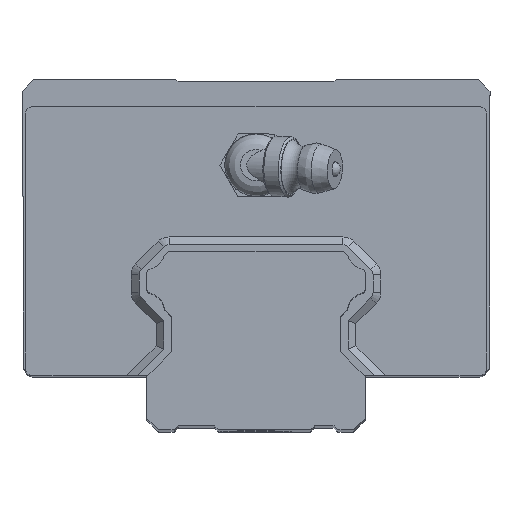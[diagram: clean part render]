
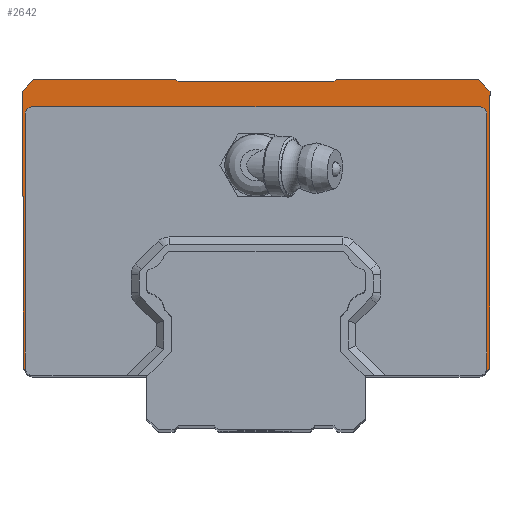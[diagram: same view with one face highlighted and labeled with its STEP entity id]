
A CAD part, top view. The second image highlights one B-rep face of the part: STEP entity #2642.
In plain terms, the highlighted planar face has unit normal (0, 0, 1).
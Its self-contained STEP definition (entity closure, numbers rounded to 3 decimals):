
#2471=CARTESIAN_POINT('',(0.,-48.616,32.22));
#2472=DIRECTION('',(0.0,0.0,1.0));
#2473=DIRECTION('',(1.0,0.0,0.0));
#2474=AXIS2_PLACEMENT_3D('',#2471,#2472,#2473);
#2475=PLANE('',#2474);
#2476=CARTESIAN_POINT('',(29.4,-11.65,32.22));
#2477=VERTEX_POINT('',#2476);
#2478=CARTESIAN_POINT('',(29.6,-11.05,32.22));
#2479=VERTEX_POINT('',#2478);
#2480=CARTESIAN_POINT('',(28.6,-11.05,32.22));
#2481=DIRECTION('',(0.0,0.0,1.0));
#2482=DIRECTION('',(1.0,0.0,0.0));
#2483=AXIS2_PLACEMENT_3D('',#2480,#2481,#2482);
#2484=CIRCLE('',#2483,1.);
#2485=EDGE_CURVE('',#2477,#2479,#2484,.T.);
#2486=ORIENTED_EDGE('',*,*,#2485,.F.);
#2487=CARTESIAN_POINT('',(30.,-11.05,32.22));
#2488=VERTEX_POINT('',#2487);
#2489=CARTESIAN_POINT('',(29.4,-11.65,32.22));
#2490=DIRECTION('',(0.707,0.707,0.0));
#2491=VECTOR('',#2490,0.849);
#2492=LINE('',#2489,#2491);
#2493=EDGE_CURVE('',#2477,#2488,#2492,.T.);
#2494=ORIENTED_EDGE('',*,*,#2493,.T.);
#2495=CARTESIAN_POINT('',(30.,24.45,32.22));
#2496=VERTEX_POINT('',#2495);
#2497=CARTESIAN_POINT('',(30.,-11.05,32.22));
#2498=DIRECTION('',(0.0,1.0,0.0));
#2499=VECTOR('',#2498,35.5);
#2500=LINE('',#2497,#2499);
#2501=EDGE_CURVE('',#2488,#2496,#2500,.T.);
#2502=ORIENTED_EDGE('',*,*,#2501,.T.);
#2503=CARTESIAN_POINT('',(28.5,25.95,32.22));
#2504=VERTEX_POINT('',#2503);
#2505=CARTESIAN_POINT('',(30.,24.45,32.22));
#2506=DIRECTION('',(-0.707,0.707,0.0));
#2507=VECTOR('',#2506,2.121);
#2508=LINE('',#2505,#2507);
#2509=EDGE_CURVE('',#2496,#2504,#2508,.T.);
#2510=ORIENTED_EDGE('',*,*,#2509,.T.);
#2511=CARTESIAN_POINT('',(10.3,25.95,32.22));
#2512=VERTEX_POINT('',#2511);
#2513=CARTESIAN_POINT('',(28.5,25.95,32.22));
#2514=DIRECTION('',(-1.0,0.0,0.0));
#2515=VECTOR('',#2514,18.2);
#2516=LINE('',#2513,#2515);
#2517=EDGE_CURVE('',#2504,#2512,#2516,.T.);
#2518=ORIENTED_EDGE('',*,*,#2517,.T.);
#2519=CARTESIAN_POINT('',(10.,25.65,32.22));
#2520=VERTEX_POINT('',#2519);
#2521=CARTESIAN_POINT('',(10.3,25.95,32.22));
#2522=DIRECTION('',(-0.707,-0.707,0.0));
#2523=VECTOR('',#2522,0.424);
#2524=LINE('',#2521,#2523);
#2525=EDGE_CURVE('',#2512,#2520,#2524,.T.);
#2526=ORIENTED_EDGE('',*,*,#2525,.T.);
#2527=CARTESIAN_POINT('',(-10.,25.65,32.22));
#2528=VERTEX_POINT('',#2527);
#2529=CARTESIAN_POINT('',(-10.,25.65,32.22));
#2530=DIRECTION('',(1.0,0.0,0.0));
#2531=VECTOR('',#2530,20.);
#2532=LINE('',#2529,#2531);
#2533=EDGE_CURVE('',#2528,#2520,#2532,.T.);
#2534=ORIENTED_EDGE('',*,*,#2533,.F.);
#2535=CARTESIAN_POINT('',(-10.3,25.95,32.22));
#2536=VERTEX_POINT('',#2535);
#2537=CARTESIAN_POINT('',(-10.,25.65,32.22));
#2538=DIRECTION('',(-0.707,0.707,0.0));
#2539=VECTOR('',#2538,0.424);
#2540=LINE('',#2537,#2539);
#2541=EDGE_CURVE('',#2528,#2536,#2540,.T.);
#2542=ORIENTED_EDGE('',*,*,#2541,.T.);
#2543=CARTESIAN_POINT('',(-28.5,25.95,32.22));
#2544=VERTEX_POINT('',#2543);
#2545=CARTESIAN_POINT('',(-10.3,25.95,32.22));
#2546=DIRECTION('',(-1.0,0.0,0.0));
#2547=VECTOR('',#2546,18.2);
#2548=LINE('',#2545,#2547);
#2549=EDGE_CURVE('',#2536,#2544,#2548,.T.);
#2550=ORIENTED_EDGE('',*,*,#2549,.T.);
#2551=CARTESIAN_POINT('',(-30.,24.45,32.22));
#2552=VERTEX_POINT('',#2551);
#2553=CARTESIAN_POINT('',(-28.5,25.95,32.22));
#2554=DIRECTION('',(-0.707,-0.707,0.0));
#2555=VECTOR('',#2554,2.121);
#2556=LINE('',#2553,#2555);
#2557=EDGE_CURVE('',#2544,#2552,#2556,.T.);
#2558=ORIENTED_EDGE('',*,*,#2557,.T.);
#2559=CARTESIAN_POINT('',(-30.,11.1,32.22));
#2560=VERTEX_POINT('',#2559);
#2561=CARTESIAN_POINT('',(-30.,24.45,32.22));
#2562=DIRECTION('',(0.0,-1.0,0.0));
#2563=VECTOR('',#2562,13.35);
#2564=LINE('',#2561,#2563);
#2565=EDGE_CURVE('',#2552,#2560,#2564,.T.);
#2566=ORIENTED_EDGE('',*,*,#2565,.T.);
#2567=CARTESIAN_POINT('',(-29.85,10.95,32.22));
#2568=VERTEX_POINT('',#2567);
#2569=CARTESIAN_POINT('',(-30.,11.1,32.22));
#2570=DIRECTION('',(0.707,-0.707,0.0));
#2571=VECTOR('',#2570,0.212);
#2572=LINE('',#2569,#2571);
#2573=EDGE_CURVE('',#2560,#2568,#2572,.T.);
#2574=ORIENTED_EDGE('',*,*,#2573,.T.);
#2575=CARTESIAN_POINT('',(-29.85,-11.05,32.22));
#2576=VERTEX_POINT('',#2575);
#2577=CARTESIAN_POINT('',(-29.85,-11.05,32.22));
#2578=DIRECTION('',(0.0,1.0,0.0));
#2579=VECTOR('',#2578,22.);
#2580=LINE('',#2577,#2579);
#2581=EDGE_CURVE('',#2576,#2568,#2580,.T.);
#2582=ORIENTED_EDGE('',*,*,#2581,.F.);
#2583=CARTESIAN_POINT('',(-29.556,-11.344,32.22));
#2584=VERTEX_POINT('',#2583);
#2585=CARTESIAN_POINT('',(-29.85,-11.05,32.22));
#2586=DIRECTION('',(0.707,-0.707,0.0));
#2587=VECTOR('',#2586,0.416);
#2588=LINE('',#2585,#2587);
#2589=EDGE_CURVE('',#2576,#2584,#2588,.T.);
#2590=ORIENTED_EDGE('',*,*,#2589,.T.);
#2591=CARTESIAN_POINT('',(-29.6,-11.05,32.22));
#2592=VERTEX_POINT('',#2591);
#2593=CARTESIAN_POINT('',(-28.6,-11.05,32.22));
#2594=DIRECTION('',(0.0,0.0,1.0));
#2595=DIRECTION('',(1.0,0.0,0.0));
#2596=AXIS2_PLACEMENT_3D('',#2593,#2594,#2595);
#2597=CIRCLE('',#2596,1.);
#2598=EDGE_CURVE('',#2592,#2584,#2597,.T.);
#2599=ORIENTED_EDGE('',*,*,#2598,.F.);
#2600=CARTESIAN_POINT('',(-29.6,21.45,32.22));
#2601=VERTEX_POINT('',#2600);
#2602=CARTESIAN_POINT('',(-29.6,21.45,32.22));
#2603=DIRECTION('',(0.0,-1.0,0.0));
#2604=VECTOR('',#2603,32.5);
#2605=LINE('',#2602,#2604);
#2606=EDGE_CURVE('',#2601,#2592,#2605,.T.);
#2607=ORIENTED_EDGE('',*,*,#2606,.F.);
#2608=CARTESIAN_POINT('',(-28.6,22.45,32.22));
#2609=VERTEX_POINT('',#2608);
#2610=CARTESIAN_POINT('',(-28.6,21.45,32.22));
#2611=DIRECTION('',(0.0,0.0,1.0));
#2612=DIRECTION('',(1.0,0.0,0.0));
#2613=AXIS2_PLACEMENT_3D('',#2610,#2611,#2612);
#2614=CIRCLE('',#2613,1.);
#2615=EDGE_CURVE('',#2609,#2601,#2614,.T.);
#2616=ORIENTED_EDGE('',*,*,#2615,.F.);
#2617=CARTESIAN_POINT('',(28.6,22.45,32.22));
#2618=VERTEX_POINT('',#2617);
#2619=CARTESIAN_POINT('',(28.6,22.45,32.22));
#2620=DIRECTION('',(-1.0,0.0,0.0));
#2621=VECTOR('',#2620,57.2);
#2622=LINE('',#2619,#2621);
#2623=EDGE_CURVE('',#2618,#2609,#2622,.T.);
#2624=ORIENTED_EDGE('',*,*,#2623,.F.);
#2625=CARTESIAN_POINT('',(29.6,21.45,32.22));
#2626=VERTEX_POINT('',#2625);
#2627=CARTESIAN_POINT('',(28.6,21.45,32.22));
#2628=DIRECTION('',(0.0,0.0,1.0));
#2629=DIRECTION('',(1.0,0.0,0.0));
#2630=AXIS2_PLACEMENT_3D('',#2627,#2628,#2629);
#2631=CIRCLE('',#2630,1.);
#2632=EDGE_CURVE('',#2626,#2618,#2631,.T.);
#2633=ORIENTED_EDGE('',*,*,#2632,.F.);
#2634=CARTESIAN_POINT('',(29.6,-11.05,32.22));
#2635=DIRECTION('',(0.0,1.0,0.0));
#2636=VECTOR('',#2635,32.5);
#2637=LINE('',#2634,#2636);
#2638=EDGE_CURVE('',#2479,#2626,#2637,.T.);
#2639=ORIENTED_EDGE('',*,*,#2638,.F.);
#2640=EDGE_LOOP('',(#2486,#2494,#2502,#2510,#2518,#2526,#2534,#2542,#2550,#2558,#2566,#2574,#2582,#2590,#2599,#2607,#2616,#2624,#2633,#2639));
#2641=FACE_OUTER_BOUND('',#2640,.T.);
#2642=ADVANCED_FACE('',(#2641),#2475,.T.);
